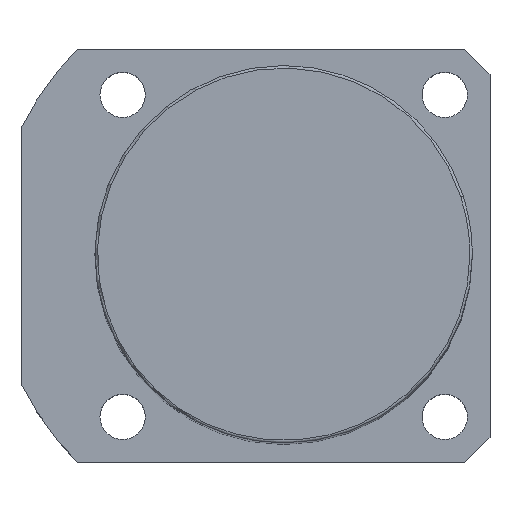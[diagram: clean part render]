
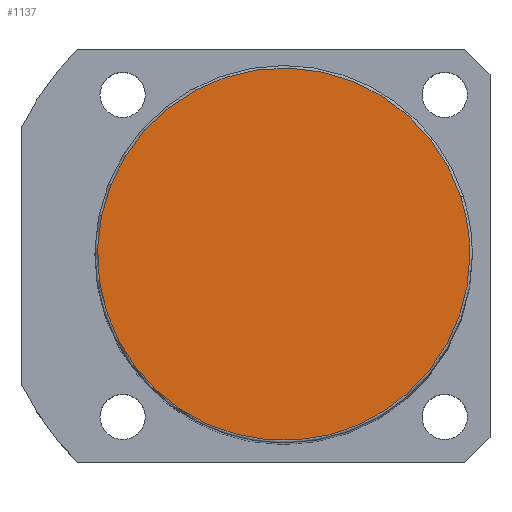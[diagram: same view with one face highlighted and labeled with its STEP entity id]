
A CAD part, top view. The second image highlights one B-rep face of the part: STEP entity #1137.
In plain terms, the highlighted planar face has unit normal (0, 0, 1).
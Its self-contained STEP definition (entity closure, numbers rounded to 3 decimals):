
#1103=CARTESIAN_POINT('',(37.0,0.0,198.0));
#1104=VERTEX_POINT('',#1103);
#1105=CARTESIAN_POINT('',(35.189,11.434,198.0));
#1106=VERTEX_POINT('',#1105);
#1107=CARTESIAN_POINT('',(0.0,0.0,198.0));
#1108=DIRECTION('',(0.0,0.0,1.0));
#1109=DIRECTION('',(1.0,0.0,0.0));
#1110=AXIS2_PLACEMENT_3D('',#1107,#1108,#1109);
#1111=CIRCLE('',#1110,37.0);
#1112=EDGE_CURVE('no 1704',#1104,#1106,#1111,.T.);
#1113=ORIENTED_EDGE('',*,*,#1112,.T.);
#1114=CARTESIAN_POINT('',(-35.189,-11.434,198.0));
#1115=VERTEX_POINT('',#1114);
#1116=CARTESIAN_POINT('',(0.0,0.0,198.0));
#1117=DIRECTION('',(0.0,0.0,1.0));
#1118=DIRECTION('',(1.0,0.0,0.0));
#1119=AXIS2_PLACEMENT_3D('',#1116,#1117,#1118);
#1120=CIRCLE('',#1119,37.0);
#1121=EDGE_CURVE('no 1710',#1106,#1115,#1120,.T.);
#1122=ORIENTED_EDGE('',*,*,#1121,.T.);
#1123=CARTESIAN_POINT('',(0.0,0.0,198.0));
#1124=DIRECTION('',(0.0,0.0,1.0));
#1125=DIRECTION('',(1.0,0.0,0.0));
#1126=AXIS2_PLACEMENT_3D('',#1123,#1124,#1125);
#1127=CIRCLE('',#1126,37.0);
#1128=EDGE_CURVE('no 1714',#1115,#1104,#1127,.T.);
#1129=ORIENTED_EDGE('',*,*,#1128,.T.);
#1130=EDGE_LOOP('',(#1113,#1122,#1129));
#1131=FACE_OUTER_BOUND('',#1130,.T.);
#1132=CARTESIAN_POINT('',(0.0,0.0,198.0));
#1133=DIRECTION('',(0.0,0.0,1.0));
#1134=DIRECTION('',(1.0,0.0,0.0));
#1135=AXIS2_PLACEMENT_3D('',#1132,#1133,#1134);
#1136=PLANE('',#1135);
#1137=ADVANCED_FACE('no 1695',(#1131),#1136,.T.);
